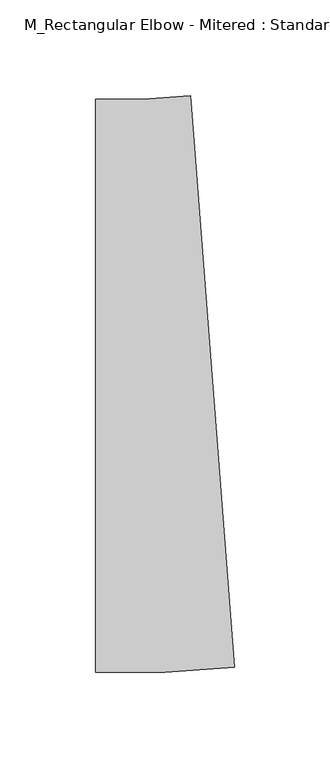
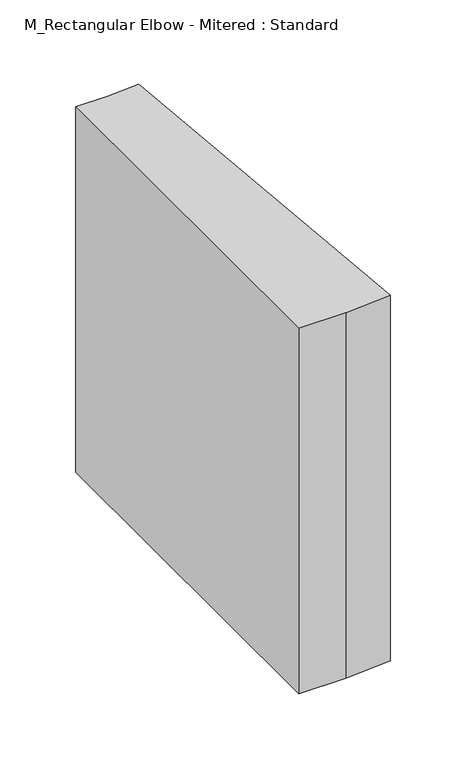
"""IFC4 building model written with IfcOpenShell, lengths in millimetres: duct fitting geometry, M_Rectangular Elbow - Mitered : Standard."""

from ifc_helpers import new_model, si_unit, frame, origin, place, context, project, spatial, polyline, outline, extrude, source, transform, mapped, element, save


def m_rectangular_elbow_mitered_standard_a5cf8a1a(model_context):
    return source(origin(), model_context, "Body", "SweptSolid", [
        extrude(outline(polyline([(-30.7335623, -150.0), (-30.7335623, 150.0), (-5.7335623, 150.0), (19.1934916, 151.9083991), (42.0942813, -147.2162468), (5.7335623, -150.0), (-30.7335623, -150.0)])), frame((0.0, 0.0, -150.0), z_axis=(0.0, 0.0, 1.0), x_axis=(1.0, 0.0, 0.0)), (0.0, 0.0, 1.0), 300.0),
        extrude(outline(polyline([(-30.7335623, -150.0), (-30.7335623, 150.0), (-5.7335623, 150.0), (19.1934916, 151.9083991), (42.0942813, -147.2162468), (5.7335623, -150.0), (-30.7335623, -150.0)])), frame((0.0, 0.0, -150.0), z_axis=(0.0, 0.0, 1.0), x_axis=(1.0, 0.0, 0.0)), (0.0, 0.0, 1.0), 300.0),
        extrude(outline(polyline([(-30.7335623, -150.0), (-30.7335623, 150.0), (-5.7335623, 150.0), (19.1934916, 151.9083991), (42.0942813, -147.2162468), (5.7335623, -150.0), (-30.7335623, -150.0)])), frame((0.0, 0.0, -150.0), z_axis=(0.0, 0.0, 1.0), x_axis=(1.0, 0.0, 0.0)), (0.0, 0.0, 1.0), 300.0),
    ])


if __name__ == "__main__":
    model = new_model("IFC4")
    model_context = context("Model", 3, world=origin())
    ifc_project = project(units=[si_unit("LENGTHUNIT", "METRE", prefix="MILLI")], contexts=[model_context])
    site = spatial("IfcSite", under=ifc_project)
    building = spatial("IfcBuilding", under=site)
    placement = place(None, origin())
    m_rectangular_elbow_mitered_standard_shape = m_rectangular_elbow_mitered_standard_a5cf8a1a(model_context)
    element("IfcDuctFitting", 1, ObjectType="M_Rectangular Elbow - Mitered : Standard", at=placement, inside=building, context=model_context, shape_type="MappedRepresentation", body=[
        mapped(m_rectangular_elbow_mitered_standard_shape, transform((0.0, 0.0, 0.0), x_axis=(1.0, 0.0, 0.0), y_axis=(0.0, 1.0, 0.0), z_axis=(0.0, 0.0, 1.0))),
    ])
    save(model, "model.ifc")
